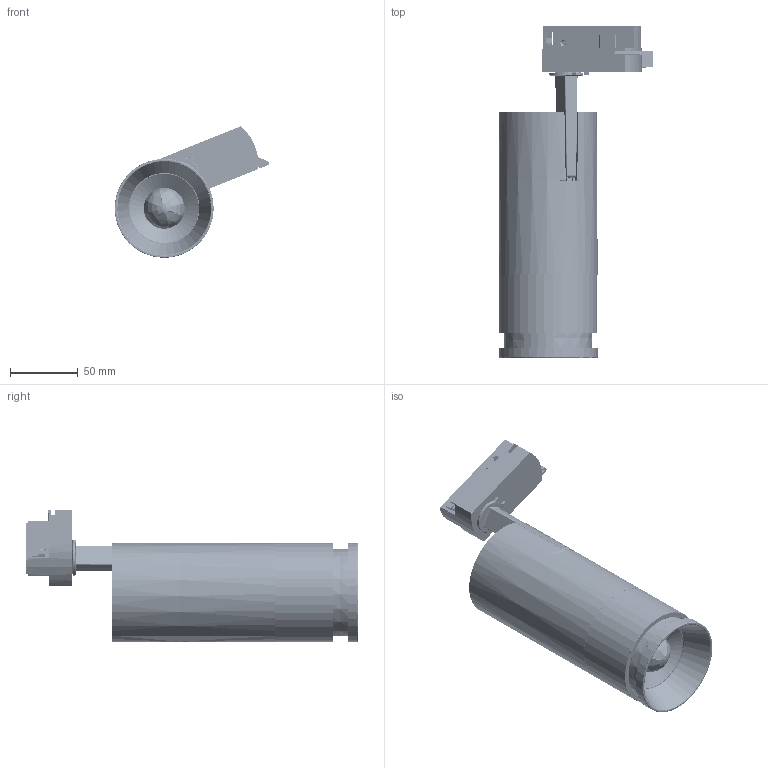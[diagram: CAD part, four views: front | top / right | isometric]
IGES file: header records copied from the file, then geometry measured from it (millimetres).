
Start section: SolidWorks IGES file using analytic representation for surfaces
Bounding box: 113.8 x 244.41 x 96.82 mm (x, y, z)
Surface area: 215898.7 mm2 (no closed solid volume)
Topology: 0 solids, 0 shells, 8999 faces, 64827 edges, 64744 vertices
Faces by surface type: bspline 8270, revolution 729
